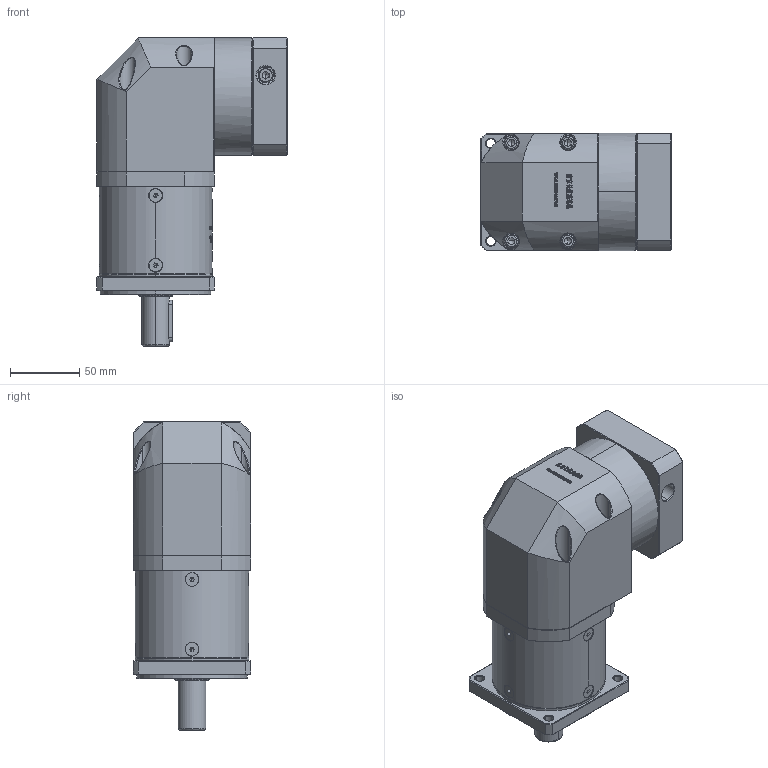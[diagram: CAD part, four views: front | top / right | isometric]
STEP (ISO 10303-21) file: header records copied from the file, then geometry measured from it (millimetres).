
FILE_DESCRIPTION (( 'STEP AP214' ), '1' );
FILE_NAME ('ZF80-D20-L2-14-73-69.6X69.6-M6.step', '2022-05-08T11:57:18', ( '' ), ( 'Microsoft' ), 'SwSTEP 2.0', 'SolidWorks 2016', '' );
FILE_SCHEMA (( 'AUTOMOTIVE_DESIGN' ));
Length unit declared in the file: millimetre
Products named in the file (1): ZF80-D20-L2-14-73-69.6X69.6-M6
Bounding box: 137.6 x 85 x 223 mm (x, y, z)
Volume: 1355857.7 mm3; surface area: 140377.2 mm2
Topology: 13 solids, 13 shells, 3059 faces, 8033 edges, 5122 vertices
Faces by surface type: plane 1619, bspline 624, cylinder 443, cone 359, torus 14
Entity records: 164863 total; most frequent: CARTESIAN_POINT 61525, ORIENTED_EDGE 15974, DIRECTION 12014, EDGE_CURVE 7987, VERTEX_POINT 5122, VECTOR 4968, LINE 4968, AXIS2_PLACEMENT_3D 3523
